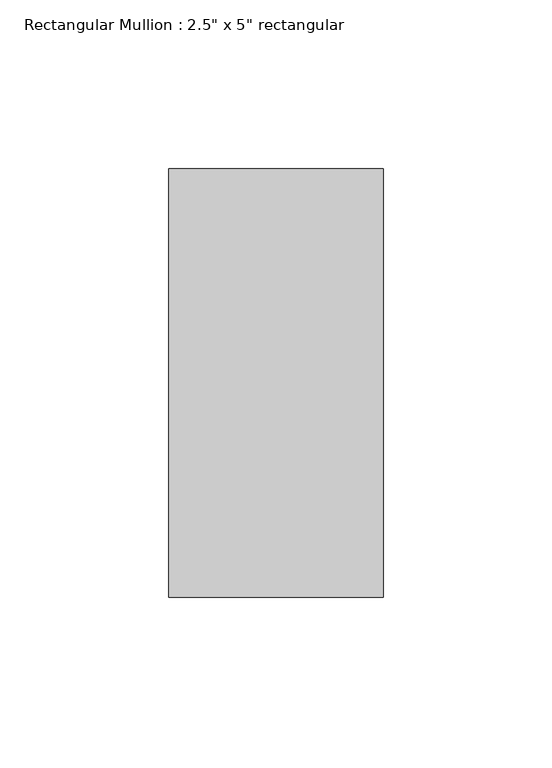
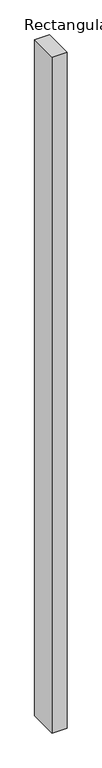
"""IFC4 building model written with IfcOpenShell, lengths in millimetres: member geometry."""

from ifc_helpers import new_model, si_unit, frame, origin, place, context, project, spatial, polyline, outline, extrude, source, transform, mapped, element, save


def member_a25cc450(model_context):
    return source(origin(), model_context, "Body", "SweptSolid", [
        extrude(outline(polyline([(31.75, 63.5), (31.75, -63.5), (-31.75, -63.5), (-31.75, 63.5), (31.75, 63.5)])), frame((0.0, 0.0, -3016.25), z_axis=(0.0, 0.0, 1.0), x_axis=(1.0, 0.0, 0.0)), (0.0, 0.0, 1.0), 3016.25),
    ])


if __name__ == "__main__":
    model = new_model("IFC4")
    model_context = context("Model", 3, world=origin())
    ifc_project = project(units=[si_unit("LENGTHUNIT", "METRE", prefix="MILLI")], contexts=[model_context])
    site = spatial("IfcSite", under=ifc_project)
    building = spatial("IfcBuilding", under=site)
    placement = place(None, origin())
    member_shape = member_a25cc450(model_context)
    element("IfcMember", 1, ObjectType="Rectangular Mullion : 2.5\" x 5\" rectangular", at=placement, inside=building, context=model_context, shape_type="MappedRepresentation", body=[
        mapped(member_shape, transform((0.0, 0.0, 0.0), x_axis=(1.0, 0.0, 0.0), y_axis=(0.0, 1.0, 0.0), z_axis=(0.0, 0.0, 1.0))),
    ])
    save(model, "model.ifc")
